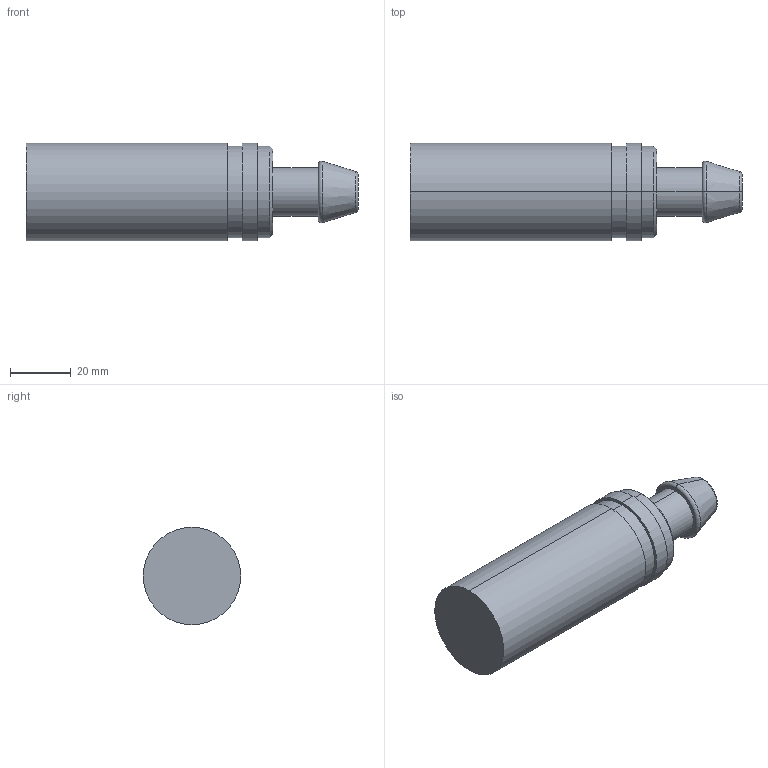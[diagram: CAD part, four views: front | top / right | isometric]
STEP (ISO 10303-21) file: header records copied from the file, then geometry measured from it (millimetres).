
FILE_DESCRIPTION (( 'STEP AP214' ), '1' );
FILE_NAME ('BR601.16 HGB 16.STEP', '2020-12-02T13:59:44', ( '' ), ( '' ), 'SwSTEP 2.0', 'SolidWorks 2018', '' );
FILE_SCHEMA (( 'AUTOMOTIVE_DESIGN' ));
Length unit declared in the file: millimetre
Products named in the file (1): BR601.16 HGB 16
Bounding box: 109 x 32 x 32 mm (x, y, z)
Volume: 70114.5 mm3; surface area: 11320 mm2
Topology: 1 solids, 1 shells, 25 faces, 48 edges, 30 vertices
Faces by surface type: cylinder 10, plane 7, cone 4, torus 4
Entity records: 682 total; most frequent: DIRECTION 134, CARTESIAN_POINT 104, ORIENTED_EDGE 96, AXIS2_PLACEMENT_3D 60, EDGE_CURVE 48, CIRCLE 34, EDGE_LOOP 30, VERTEX_POINT 30
